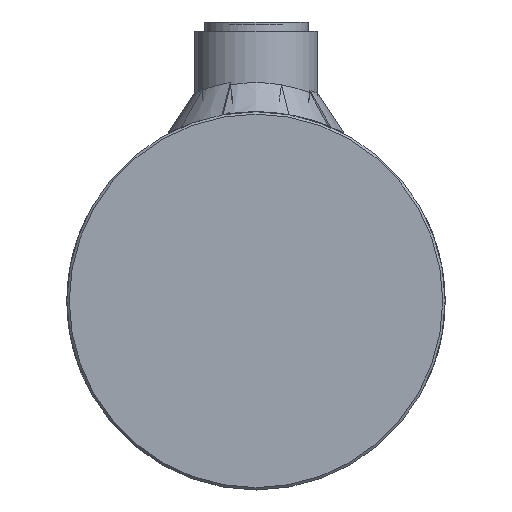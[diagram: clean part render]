
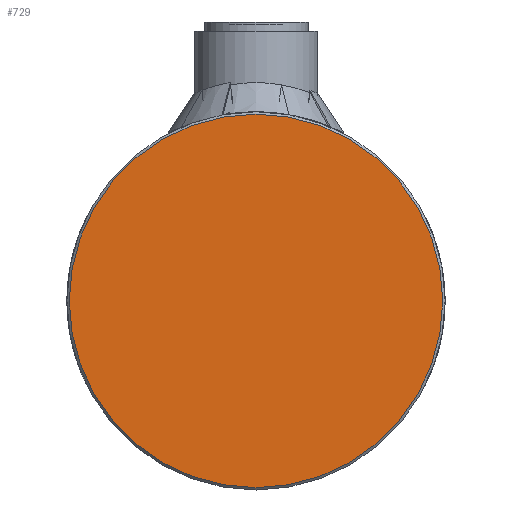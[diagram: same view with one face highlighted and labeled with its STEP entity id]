
A CAD part, left-side view. The second image highlights one B-rep face of the part: STEP entity #729.
In plain terms, the highlighted planar face has unit normal (-1, 0, 0).
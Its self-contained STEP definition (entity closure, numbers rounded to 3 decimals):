
#729 = ADVANCED_FACE( '', ( #1408 ), #1409, .T. );
#1408 = FACE_OUTER_BOUND( '', #3457, .T. );
#1409 = PLANE( '', #3458 );
#3457 = EDGE_LOOP( '', ( #8560 ) );
#3458 = AXIS2_PLACEMENT_3D( '', #8561, #8562, #8563 );
#8560 = ORIENTED_EDGE( '', *, *, #9738, .T. );
#8561 = CARTESIAN_POINT( '', ( -63., 0., 0. ) );
#8562 = DIRECTION( '', ( -1., 0., 0. ) );
#8563 = DIRECTION( '', ( 0., -1., 0. ) );
#9738 = EDGE_CURVE( '', #10431, #10431, #10432, .T. );
#10431 = VERTEX_POINT( '', #11362 );
#10432 = CIRCLE( '', #11363, 39.5 );
#11362 = CARTESIAN_POINT( '', ( -63., -39.5, 0. ) );
#11363 = AXIS2_PLACEMENT_3D( '', #14274, #14275, #14276 );
#14274 = CARTESIAN_POINT( '', ( -63., 0., 0. ) );
#14275 = DIRECTION( '', ( -1., 0., 0. ) );
#14276 = DIRECTION( '', ( 0., -1., 0. ) );
